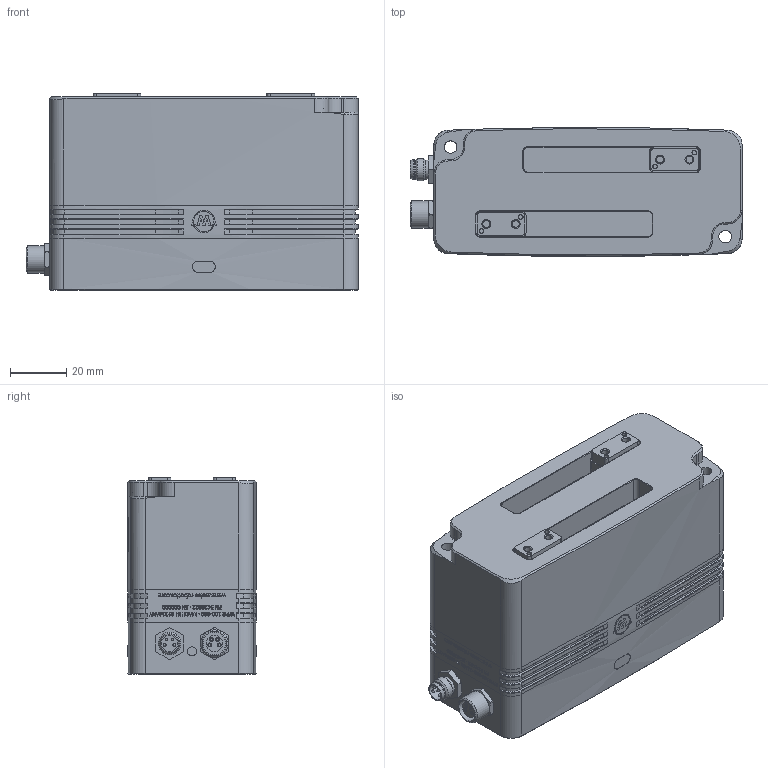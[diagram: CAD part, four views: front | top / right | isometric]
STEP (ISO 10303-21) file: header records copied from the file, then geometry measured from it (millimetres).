
FILE_DESCRIPTION(/* description */ (''),/* implementation_level */ '2;1');
FILE_NAME(/* name */ 'H:\WPG\WPG 100\Modell\Konturvereinfachung\output\WPG 100-090 Customer.stp',/* time_stamp */ '2023-11-13T11:11:40+01:00',/* author */ ('WEISS ROBOTICS GMBH & CO. KG'),/* organization */ ('WEISS ROBOTICS GMBH & CO. KG'),/* preprocessor_version */ 'ST-DEVELOPER v17',/* originating_system */ 'Autodesk Inventor 2018',/* authorisation */ '');
FILE_SCHEMA (('AUTOMOTIVE_DESIGN { 1 0 10303 214 3 1 1 }'));
Length unit declared in the file: millimetre
Products named in the file (5): WPG 100-090 Customer; Grundkörper Abgedichtet; Grundbacke; M8 Stecker; M8 Buchse
Assembly tree (5 placements, depth 2):
  WPG 100-090 Customer
    Grundkörper Abgedichtet
    Grundbacke  x2
    M8 Stecker
    M8 Buchse
Bounding box: 118.5 x 46 x 70 mm (x, y, z)
Volume: 328432.9 mm3; surface area: 60160.9 mm2
Topology: 7 solids, 7 shells, 1450 faces, 3882 edges, 2574 vertices
Faces by surface type: bspline 599, plane 569, cylinder 196, cone 82, sphere 4
Full cylindrical faces by diameter (mm): 1 x8, 1.505 x4, 2.459 x4, 3.3 x1, 3.8 x2, 4.006 x2, 4.5 x6, 5 x2, 5.8 x1, 6 x1, 6.4 x1, 6.8 x2, 7 x1, 7.2 x1, 8 x5, 9.6 x2, 9.8 x1
Entity records: 60442 total; most frequent: CARTESIAN_POINT 28240, ORIENTED_EDGE 7584, DIRECTION 4746, EDGE_CURVE 3792, VERTEX_POINT 2520, LINE 1970, VECTOR 1970, EDGE_LOOP 1566
